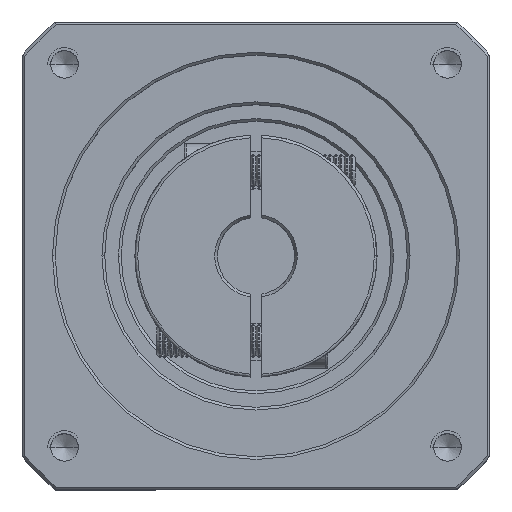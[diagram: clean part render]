
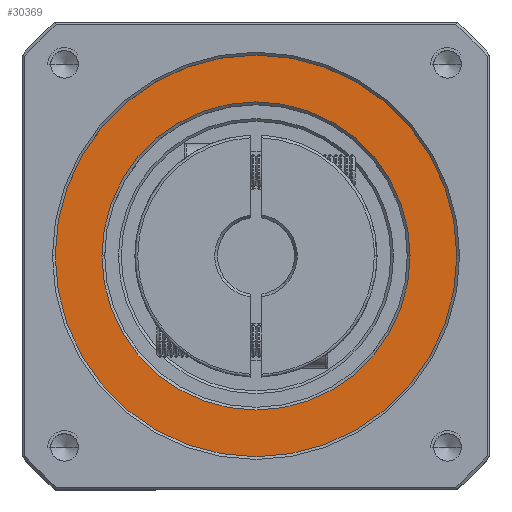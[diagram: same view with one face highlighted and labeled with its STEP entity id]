
A CAD part, top view. The second image highlights one B-rep face of the part: STEP entity #30369.
In plain terms, the highlighted planar face has unit normal (0, 0, 1).
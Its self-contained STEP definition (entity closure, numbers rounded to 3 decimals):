
#1086 = DIRECTION ( 'NONE',  ( 0., 0., -1. ) ) ;
#12338 = FACE_OUTER_BOUND ( 'NONE', #87669, .T. ) ;
#13003 = CARTESIAN_POINT ( 'NONE',  ( -67.807, 41.931, 45.967 ) ) ;
#20492 = CARTESIAN_POINT ( 'NONE',  ( -95.807, 41.931, 45.967 ) ) ;
#20898 = DIRECTION ( 'NONE',  ( 0., 0., 1. ) ) ;
#22175 = AXIS2_PLACEMENT_3D ( 'NONE', #59949, #1086, #69806 ) ;
#26935 = ORIENTED_EDGE ( 'NONE', *, *, #45014, .T. ) ;
#28727 = CIRCLE ( 'NONE', #54601, 28. ) ;
#29382 = CARTESIAN_POINT ( 'NONE',  ( -95.807, 41.931, 45.967 ) ) ;
#29691 = CIRCLE ( 'NONE', #125291, 36.5 ) ;
#30301 = DIRECTION ( 'NONE',  ( 1., 0., 0. ) ) ;
#30369 = ADVANCED_FACE ( 'NONE', ( #12338, #35389 ), #108540, .T. ) ;
#33829 = AXIS2_PLACEMENT_3D ( 'NONE', #29382, #98179, #39284 ) ;
#35389 = FACE_BOUND ( 'NONE', #76779, .T. ) ;
#35640 = CARTESIAN_POINT ( 'NONE',  ( -123.807, 41.931, 45.967 ) ) ;
#37338 = ORIENTED_EDGE ( 'NONE', *, *, #112681, .T. ) ;
#39284 = DIRECTION ( 'NONE',  ( 1., 0., 0. ) ) ;
#44067 = AXIS2_PLACEMENT_3D ( 'NONE', #20492, #89190, #30301 ) ;
#45014 = EDGE_CURVE ( 'NONE', #80226, #90943, #92894, .T. ) ;
#51728 = DIRECTION ( 'NONE',  ( 0., 0., -1. ) ) ;
#54601 = AXIS2_PLACEMENT_3D ( 'NONE', #110661, #51728, #120499 ) ;
#54718 = CARTESIAN_POINT ( 'NONE',  ( -59.307, 41.931, 45.967 ) ) ;
#59949 = CARTESIAN_POINT ( 'NONE',  ( -95.807, 41.931, 45.967 ) ) ;
#64162 = ORIENTED_EDGE ( 'NONE', *, *, #68347, .T. ) ;
#68347 = EDGE_CURVE ( 'NONE', #90943, #80226, #29691, .T. ) ;
#69806 = DIRECTION ( 'NONE',  ( 1., 0., 0. ) ) ;
#75832 = ORIENTED_EDGE ( 'NONE', *, *, #109264, .T. ) ;
#76779 = EDGE_LOOP ( 'NONE', ( #37338, #75832 ) ) ;
#79705 = CARTESIAN_POINT ( 'NONE',  ( -95.807, 41.931, 45.967 ) ) ;
#80226 = VERTEX_POINT ( 'NONE', #98502 ) ;
#87669 = EDGE_LOOP ( 'NONE', ( #64162, #26935 ) ) ;
#89190 = DIRECTION ( 'NONE',  ( 0., 0., 1. ) ) ;
#89603 = DIRECTION ( 'NONE',  ( 1., 0., 0. ) ) ;
#90943 = VERTEX_POINT ( 'NONE', #54718 ) ;
#92894 = CIRCLE ( 'NONE', #33829, 36.5 ) ;
#98179 = DIRECTION ( 'NONE',  ( 0., 0., 1. ) ) ;
#98502 = CARTESIAN_POINT ( 'NONE',  ( -132.307, 41.931, 45.967 ) ) ;
#102048 = VERTEX_POINT ( 'NONE', #35640 ) ;
#106357 = CIRCLE ( 'NONE', #22175, 28. ) ;
#108540 = PLANE ( 'NONE',  #44067 ) ;
#109264 = EDGE_CURVE ( 'NONE', #102048, #115943, #106357, .T. ) ;
#110661 = CARTESIAN_POINT ( 'NONE',  ( -95.807, 41.931, 45.967 ) ) ;
#112681 = EDGE_CURVE ( 'NONE', #115943, #102048, #28727, .T. ) ;
#115943 = VERTEX_POINT ( 'NONE', #13003 ) ;
#120499 = DIRECTION ( 'NONE',  ( 1., 0., 0. ) ) ;
#125291 = AXIS2_PLACEMENT_3D ( 'NONE', #79705, #20898, #89603 ) ;
